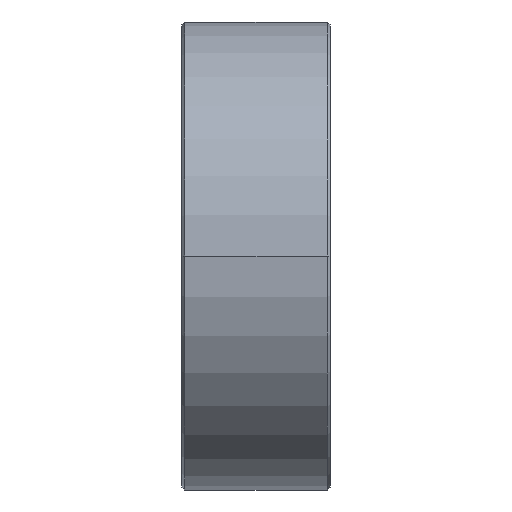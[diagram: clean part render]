
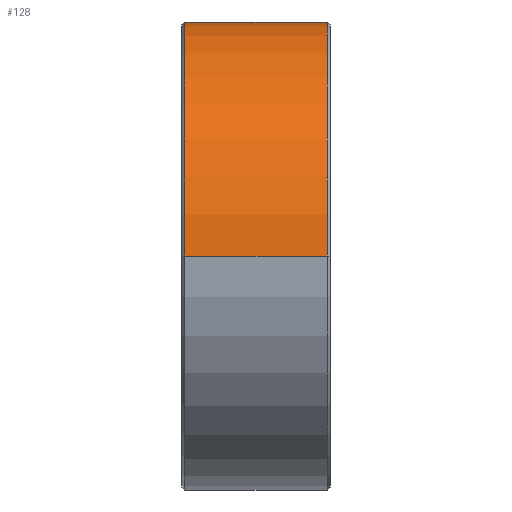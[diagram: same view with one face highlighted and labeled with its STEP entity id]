
A CAD part, left-side view. The second image highlights one B-rep face of the part: STEP entity #128.
In plain terms, the highlighted cylindrical face has radius 39.5 mm (diameter 79 mm), a partial arc.
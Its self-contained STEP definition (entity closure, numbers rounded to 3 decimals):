
#128=ADVANCED_FACE('',(#307),#308,.T.);
#307=FACE_OUTER_BOUND('',#728,.T.);
#308=CYLINDRICAL_SURFACE('',#729,39.5);
#728=EDGE_LOOP('',(#1174,#1175,#1176,#1177,#1178,#1179,#1180,#1181,#1182,#1183,#1184,#1185,#1186));
#729=AXIS2_PLACEMENT_3D('',#1187,#1188,#1189);
#1174=ORIENTED_EDGE('',*,*,#2472,.F.);
#1175=ORIENTED_EDGE('',*,*,#2473,.F.);
#1176=ORIENTED_EDGE('',*,*,#2474,.F.);
#1177=ORIENTED_EDGE('',*,*,#2471,.F.);
#1178=ORIENTED_EDGE('',*,*,#2475,.F.);
#1179=ORIENTED_EDGE('',*,*,#2476,.F.);
#1180=ORIENTED_EDGE('',*,*,#2477,.F.);
#1181=ORIENTED_EDGE('',*,*,#2478,.F.);
#1182=ORIENTED_EDGE('',*,*,#2479,.F.);
#1183=ORIENTED_EDGE('',*,*,#2480,.F.);
#1184=ORIENTED_EDGE('',*,*,#2481,.F.);
#1185=ORIENTED_EDGE('',*,*,#2482,.F.);
#1186=ORIENTED_EDGE('',*,*,#2483,.F.);
#1187=CARTESIAN_POINT('',(0.0,12.5,0.0));
#1188=DIRECTION('',(0.0,-1.0,0.0));
#1189=DIRECTION('',(1.0,0.0,0.0));
#2471=EDGE_CURVE('',#2885,#2881,#2887,.T.);
#2472=EDGE_CURVE('',#2888,#2889,#2890,.T.);
#2473=EDGE_CURVE('',#2891,#2888,#2892,.T.);
#2474=EDGE_CURVE('',#2881,#2891,#2893,.T.);
#2475=EDGE_CURVE('',#2894,#2885,#2895,.T.);
#2476=EDGE_CURVE('',#2896,#2894,#2897,.T.);
#2477=EDGE_CURVE('',#2898,#2896,#2899,.T.);
#2478=EDGE_CURVE('',#2900,#2898,#2901,.T.);
#2479=EDGE_CURVE('',#2902,#2900,#2903,.T.);
#2480=EDGE_CURVE('',#2904,#2902,#2905,.T.);
#2481=EDGE_CURVE('',#2906,#2904,#2907,.T.);
#2482=EDGE_CURVE('',#2908,#2906,#2909,.T.);
#2483=EDGE_CURVE('',#2889,#2908,#2910,.T.);
#2881=VERTEX_POINT('',#3558);
#2885=VERTEX_POINT('',#3563);
#2887=CIRCLE('',#3566,39.5);
#2888=VERTEX_POINT('',#3567);
#2889=VERTEX_POINT('',#3568);
#2890=LINE('',#3569,#3570);
#2891=VERTEX_POINT('',#3571);
#2892=CIRCLE('',#3572,39.5);
#2893=LINE('',#3573,#3574);
#2894=VERTEX_POINT('',#3575);
#2895=LINE('',#3576,#3577);
#2896=VERTEX_POINT('',#3578);
#2897=ELLIPSE('',#3579,42.158,39.5);
#2898=VERTEX_POINT('',#3580);
#2899=B_SPLINE_CURVE_WITH_KNOTS('',3,(#3581,#3582,#3583,#3584,#3585,#3586),.UNSPECIFIED.,.F.,.F.,(4,2,4),(2.142,2.264,2.274),.UNSPECIFIED.);
#2900=VERTEX_POINT('',#3587);
#2901=ELLIPSE('',#3588,238.226,39.5);
#2902=VERTEX_POINT('',#3589);
#2903=B_SPLINE_CURVE_WITH_KNOTS('',3,(#3590,#3591,#3592,#3593,#3594,#3595),.UNSPECIFIED.,.F.,.F.,(4,2,4),(1.541,1.585,1.669),.UNSPECIFIED.);
#2904=VERTEX_POINT('',#3596);
#2905=ELLIPSE('',#3597,51.223,39.5);
#2906=VERTEX_POINT('',#3598);
#2907=B_SPLINE_CURVE_WITH_KNOTS('',3,(#3599,#3600,#3601,#3602),.UNSPECIFIED.,.F.,.F.,(4,4),(0.938,1.067),.UNSPECIFIED.);
#2908=VERTEX_POINT('',#3603);
#2909=B_SPLINE_CURVE_WITH_KNOTS('',3,(#3604,#3605,#3606,#3607),.UNSPECIFIED.,.F.,.F.,(4,4),(0.938,1.067),.UNSPECIFIED.);
#2910=ELLIPSE('',#3608,42.158,39.5);
#3558=CARTESIAN_POINT('',(-39.5,0.5,0.));
#3563=CARTESIAN_POINT('',(39.5,0.5,0.));
#3566=AXIS2_PLACEMENT_3D('',#4597,#4598,#4599);
#3567=CARTESIAN_POINT('',(39.5,24.5,0.));
#3568=CARTESIAN_POINT('',(39.5,14.07,0.));
#3569=CARTESIAN_POINT('',(39.5,12.5,0.));
#3570=VECTOR('',#4600,1.0);
#3571=CARTESIAN_POINT('',(-39.5,24.5,0.));
#3572=AXIS2_PLACEMENT_3D('',#4601,#4602,#4603);
#3573=CARTESIAN_POINT('',(-39.5,12.5,0.));
#3574=VECTOR('',#4604,1.0);
#3575=CARTESIAN_POINT('',(39.5,2.33,0.));
#3576=CARTESIAN_POINT('',(39.5,12.5,0.));
#3577=VECTOR('',#4605,1.0);
#3578=CARTESIAN_POINT('',(39.279,3.885,4.169));
#3579=AXIS2_PLACEMENT_3D('',#4606,#4607,#4608);
#3580=CARTESIAN_POINT('',(39.179,4.923,5.026));
#3581=CARTESIAN_POINT('',(39.179,4.923,5.026));
#3582=CARTESIAN_POINT('',(39.209,4.568,4.795));
#3583=CARTESIAN_POINT('',(39.241,4.243,4.528));
#3584=CARTESIAN_POINT('',(39.274,3.933,4.218));
#3585=CARTESIAN_POINT('',(39.277,3.909,4.194));
#3586=CARTESIAN_POINT('',(39.279,3.885,4.169));
#3587=CARTESIAN_POINT('',(39.069,9.653,5.821));
#3588=AXIS2_PLACEMENT_3D('',#4609,#4610,#4611);
#3589=CARTESIAN_POINT('',(39.136,10.915,5.351));
#3590=CARTESIAN_POINT('',(39.136,10.915,5.351));
#3591=CARTESIAN_POINT('',(39.126,10.778,5.42));
#3592=CARTESIAN_POINT('',(39.118,10.639,5.484));
#3593=CARTESIAN_POINT('',(39.093,10.223,5.656));
#3594=CARTESIAN_POINT('',(39.079,9.94,5.75));
#3595=CARTESIAN_POINT('',(39.069,9.653,5.821));
#3596=CARTESIAN_POINT('',(39.465,13.968,1.653));
#3597=AXIS2_PLACEMENT_3D('',#4612,#4613,#4614);
#3598=CARTESIAN_POINT('',(39.487,14.117,0.995));
#3599=CARTESIAN_POINT('',(39.499,14.191,0.325));
#3600=CARTESIAN_POINT('',(39.495,14.167,0.763));
#3601=CARTESIAN_POINT('',(39.484,14.094,1.214));
#3602=CARTESIAN_POINT('',(39.465,13.968,1.653));
#3603=CARTESIAN_POINT('',(39.499,14.191,0.325));
#3604=CARTESIAN_POINT('',(39.499,14.191,0.325));
#3605=CARTESIAN_POINT('',(39.495,14.167,0.763));
#3606=CARTESIAN_POINT('',(39.484,14.094,1.214));
#3607=CARTESIAN_POINT('',(39.465,13.968,1.653));
#3608=AXIS2_PLACEMENT_3D('',#4615,#4616,#4617);
#4597=CARTESIAN_POINT('',(0.0,0.5,0.0));
#4598=DIRECTION('',(0.0,-1.0,0.0));
#4599=DIRECTION('',(-1.0,0.0,0.0));
#4600=DIRECTION('',(0.0,-1.0,0.0));
#4601=CARTESIAN_POINT('',(0.0,24.5,0.0));
#4602=DIRECTION('',(0.0,1.0,0.0));
#4603=DIRECTION('',(-1.0,0.0,0.0));
#4604=DIRECTION('',(0.0,1.0,0.0));
#4605=DIRECTION('',(0.0,-1.0,0.0));
#4606=CARTESIAN_POINT('',(0.0,2.33,0.0));
#4607=DIRECTION('',(0.,0.937,-0.349));
#4608=DIRECTION('',(0.0,0.349,0.937));
#4609=CARTESIAN_POINT('',(0.0,-24.971,0.0));
#4610=DIRECTION('',(0.,0.166,-0.986));
#4611=DIRECTION('',(0.0,0.986,0.166));
#4612=CARTESIAN_POINT('',(0.0,15.332,0.0));
#4613=DIRECTION('',(0.,-0.771,-0.637));
#4614=DIRECTION('',(0.0,-0.637,0.771));
#4615=CARTESIAN_POINT('',(0.0,14.07,0.0));
#4616=DIRECTION('',(0.,-0.937,0.349));
#4617=DIRECTION('',(0.0,0.349,0.937));
